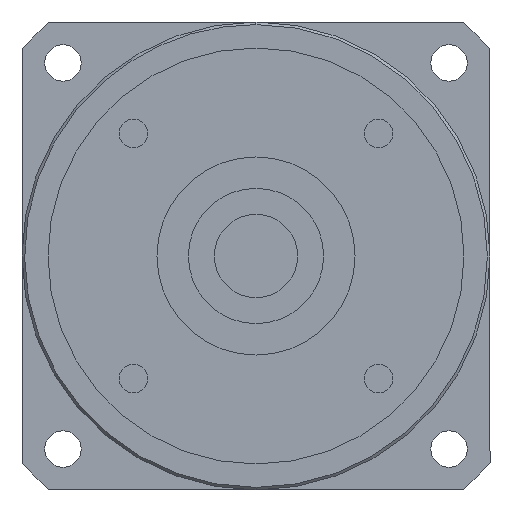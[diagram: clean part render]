
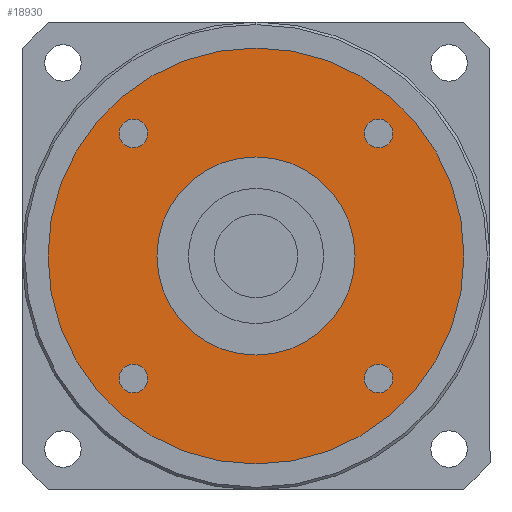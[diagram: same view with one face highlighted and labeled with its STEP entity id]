
A CAD part, left-side view. The second image highlights one B-rep face of the part: STEP entity #18930.
In plain terms, the highlighted planar face has unit normal (-1, 0, 0) as drawn and (0, 0, -1) by its records, which use the part's own axes.
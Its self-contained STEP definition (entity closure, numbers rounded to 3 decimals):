
#15670=CARTESIAN_POINT('',(0.,0.,
-117.));
#15680=DIRECTION('',(0.,0.,1.));
#15690=DIRECTION('',(0.,-1.,0.));
#15700=AXIS2_PLACEMENT_3D('',#15670,#15680,#15690);
#15710=CIRCLE('',#15700,19.05);
#15720=CARTESIAN_POINT('',(0.,-19.05,-117.));
#15730=VERTEX_POINT('',#15720);
#15740=CARTESIAN_POINT('',(19.05,0.,-117.));
#15750=VERTEX_POINT('',#15740);
#15760=EDGE_CURVE('',#15730,#15750,#15710,.T.);
#15990=CARTESIAN_POINT('',(-19.05,0.,-117.));
#16000=VERTEX_POINT('',#15990);
#16030=EDGE_CURVE('',#16000,#15730,#15710,.T.);
#16170=CARTESIAN_POINT('',(-20.821,-23.571,-117.));
#16180=VERTEX_POINT('',#16170);
#16360=CARTESIAN_POINT('',(-26.321,-23.571,-117.));
#16370=VERTEX_POINT('',#16360);
#16400=CARTESIAN_POINT('',(-23.571,-23.571,-117.));
#16410=DIRECTION('',(0.,0.,-1.));
#16420=DIRECTION('',(0.,-1.,0.));
#16430=AXIS2_PLACEMENT_3D('',#16400,#16410,#16420);
#16440=CIRCLE('',#16430,2.75);
#16450=CARTESIAN_POINT('',(-23.571,-26.321,-117.));
#16460=VERTEX_POINT('',#16450);
#16470=EDGE_CURVE('',#16460,#16370,#16440,.T.);
#16490=EDGE_CURVE('',#16180,#16460,#16440,.T.);
#17860=CARTESIAN_POINT('',(40.,0.,-117.));
#17870=VERTEX_POINT('',#17860);
#17900=CARTESIAN_POINT('',(0.,0.,
-117.));
#17910=DIRECTION('',(0.,0.,1.));
#17920=DIRECTION('',(0.,-1.,0.));
#17930=AXIS2_PLACEMENT_3D('',#17900,#17910,#17920);
#17940=CIRCLE('',#17930,40.);
#17950=CARTESIAN_POINT('',(0.,-40.,-117.));
#17960=VERTEX_POINT('',#17950);
#17970=EDGE_CURVE('',#17960,#17870,#17940,.T.);
#17990=CARTESIAN_POINT('',(-40.,0.,-117.));
#18000=VERTEX_POINT('',#17990);
#18010=EDGE_CURVE('',#18000,#17960,#17940,.T.);
#18130=CARTESIAN_POINT('',(0.,0.,
-117.));
#18140=DIRECTION('',(0.,0.,1.));
#18150=DIRECTION('',(-1.,0.,0.));
#18160=AXIS2_PLACEMENT_3D('',#18130,#18140,#18150);
#18170=PLANE('',#18160);
#18180=CARTESIAN_POINT('',(23.571,-23.571,-117.));
#18190=DIRECTION('',(0.,0.,-1.));
#18200=DIRECTION('',(1.,0.,0.));
#18210=AXIS2_PLACEMENT_3D('',#18180,#18190,#18200);
#18220=CIRCLE('',#18210,2.75);
#18230=CARTESIAN_POINT('',(26.321,-23.571,-117.));
#18240=VERTEX_POINT('',#18230);
#18250=CARTESIAN_POINT('',(23.571,-26.321,-117.));
#18260=VERTEX_POINT('',#18250);
#18270=EDGE_CURVE('',#18240,#18260,#18220,.T.);
#18280=ORIENTED_EDGE('',*,*,#18270,.F.);
#18290=CARTESIAN_POINT('',(23.571,-20.821,-117.));
#18300=VERTEX_POINT('',#18290);
#18310=EDGE_CURVE('',#18260,#18300,#18220,.T.);
#18320=ORIENTED_EDGE('',*,*,#18310,.F.);
#18330=EDGE_CURVE('',#18300,#18240,#18220,.T.);
#18340=ORIENTED_EDGE('',*,*,#18330,.F.);
#18350=EDGE_LOOP('',(#18340,#18320,#18280));
#18360=FACE_BOUND('',#18350,.T.);
#18370=CARTESIAN_POINT('',(23.571,23.571,-117.));
#18380=DIRECTION('',(0.,0.,-1.));
#18390=DIRECTION('',(0.,1.,0.));
#18400=AXIS2_PLACEMENT_3D('',#18370,#18380,#18390);
#18410=CIRCLE('',#18400,2.75);
#18420=CARTESIAN_POINT('',(23.571,26.321,-117.));
#18430=VERTEX_POINT('',#18420);
#18440=CARTESIAN_POINT('',(26.321,23.571,-117.));
#18450=VERTEX_POINT('',#18440);
#18460=EDGE_CURVE('',#18430,#18450,#18410,.T.);
#18470=ORIENTED_EDGE('',*,*,#18460,.F.);
#18480=CARTESIAN_POINT('',(20.821,23.571,-117.));
#18490=VERTEX_POINT('',#18480);
#18500=EDGE_CURVE('',#18450,#18490,#18410,.T.);
#18510=ORIENTED_EDGE('',*,*,#18500,.F.);
#18520=EDGE_CURVE('',#18490,#18430,#18410,.T.);
#18530=ORIENTED_EDGE('',*,*,#18520,.F.);
#18540=EDGE_LOOP('',(#18530,#18510,#18470));
#18550=FACE_BOUND('',#18540,.T.);
#18560=CARTESIAN_POINT('',(-23.571,23.571,-117.));
#18570=DIRECTION('',(0.,0.,-1.));
#18580=DIRECTION('',(-1.,0.,0.));
#18590=AXIS2_PLACEMENT_3D('',#18560,#18570,#18580);
#18600=CIRCLE('',#18590,2.75);
#18610=CARTESIAN_POINT('',(-26.321,23.571,-117.));
#18620=VERTEX_POINT('',#18610);
#18630=CARTESIAN_POINT('',(-23.571,26.321,-117.));
#18640=VERTEX_POINT('',#18630);
#18650=EDGE_CURVE('',#18620,#18640,#18600,.T.);
#18660=ORIENTED_EDGE('',*,*,#18650,.F.);
#18670=CARTESIAN_POINT('',(-23.571,20.821,-117.));
#18680=VERTEX_POINT('',#18670);
#18690=EDGE_CURVE('',#18640,#18680,#18600,.T.);
#18700=ORIENTED_EDGE('',*,*,#18690,.F.);
#18710=EDGE_CURVE('',#18680,#18620,#18600,.T.);
#18720=ORIENTED_EDGE('',*,*,#18710,.F.);
#18730=EDGE_LOOP('',(#18720,#18700,#18660));
#18740=FACE_BOUND('',#18730,.T.);
#18750=ORIENTED_EDGE('',*,*,#16470,.F.);
#18760=EDGE_CURVE('',#16370,#16180,#16440,.T.);
#18770=ORIENTED_EDGE('',*,*,#18760,.F.);
#18780=ORIENTED_EDGE('',*,*,#16490,.F.);
#18790=EDGE_LOOP('',(#18780,#18770,#18750));
#18800=FACE_BOUND('',#18790,.T.);
#18810=ORIENTED_EDGE('',*,*,#17970,.F.);
#18820=EDGE_CURVE('',#17870,#18000,#17940,.T.);
#18830=ORIENTED_EDGE('',*,*,#18820,.F.);
#18840=ORIENTED_EDGE('',*,*,#18010,.F.);
#18850=EDGE_LOOP('',(#18840,#18830,#18810));
#18860=FACE_OUTER_BOUND('',#18850,.T.);
#18870=EDGE_CURVE('',#15750,#16000,#15710,.T.);
#18880=ORIENTED_EDGE('',*,*,#18870,.T.);
#18890=ORIENTED_EDGE('',*,*,#15760,.T.);
#18900=ORIENTED_EDGE('',*,*,#16030,.T.);
#18910=EDGE_LOOP('',(#18900,#18890,#18880));
#18920=FACE_BOUND('',#18910,.T.);
#18930=ADVANCED_FACE('',(#18360,#18550,#18740,#18800,#18860,#18920),
#18170,.F.);
